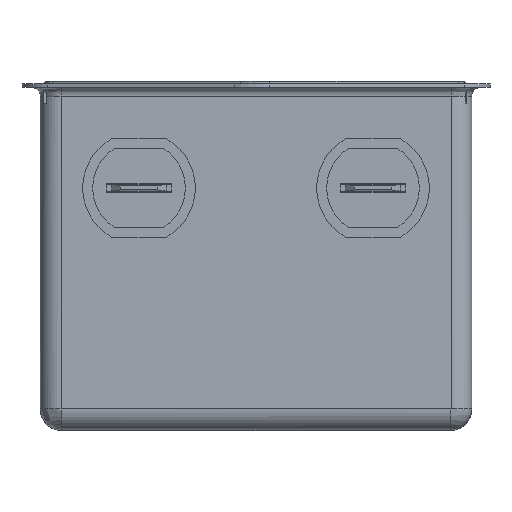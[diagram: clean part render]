
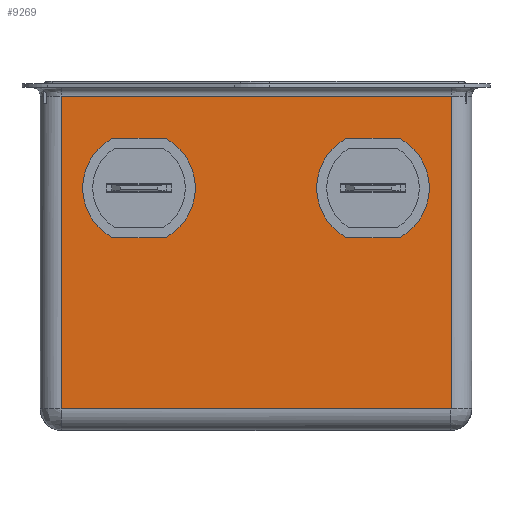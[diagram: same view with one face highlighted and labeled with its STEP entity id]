
A CAD part, left-side view. The second image highlights one B-rep face of the part: STEP entity #9269.
In plain terms, the highlighted planar face has unit normal (-1, 0, 0).
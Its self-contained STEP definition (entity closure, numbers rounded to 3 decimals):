
#3022=CARTESIAN_POINT('',(-18.073,32.813,2.5));
#3023=VERTEX_POINT('',#3022);
#3032=CARTESIAN_POINT('',(-18.073,-12.187,2.5));
#3033=VERTEX_POINT('',#3032);
#3041=CARTESIAN_POINT('',(-18.073,-12.187,2.5));
#3042=DIRECTION('',(0.0,1.0,0.0));
#3043=VECTOR('',#3042,45.0);
#3044=LINE('',#3041,#3043);
#3045=EDGE_CURVE('',#3033,#3023,#3044,.T.);
#3325=CARTESIAN_POINT('',(-18.073,32.813,38.6));
#3326=VERTEX_POINT('',#3325);
#3327=CARTESIAN_POINT('',(-18.073,32.813,2.5));
#3328=DIRECTION('',(0.0,0.0,1.0));
#3329=VECTOR('',#3328,36.1);
#3330=LINE('',#3327,#3329);
#3331=EDGE_CURVE('',#3023,#3326,#3330,.T.);
#4191=CARTESIAN_POINT('',(-18.073,-12.187,38.6));
#4192=VERTEX_POINT('',#4191);
#4193=CARTESIAN_POINT('',(-18.073,32.813,38.6));
#4194=DIRECTION('',(0.0,-1.0,0.0));
#4195=VECTOR('',#4194,45.);
#4196=LINE('',#4193,#4195);
#4197=EDGE_CURVE('',#3326,#4192,#4196,.T.);
#5837=CARTESIAN_POINT('',(-18.073,-12.187,38.6));
#5838=DIRECTION('',(0.0,0.0,-1.0));
#5839=VECTOR('',#5838,36.1);
#5840=LINE('',#5837,#5839);
#5841=EDGE_CURVE('',#4192,#3033,#5840,.T.);
#7356=CARTESIAN_POINT('',(-18.073,-6.218,33.75));
#7357=VERTEX_POINT('',#7356);
#7358=CARTESIAN_POINT('',(-18.073,-6.218,22.25));
#7359=VERTEX_POINT('',#7358);
#7360=CARTESIAN_POINT('',(-18.073,-3.187,28.));
#7361=DIRECTION('',(1.0,0.,0.));
#7362=DIRECTION('',(0.,-0.466,0.885));
#7363=AXIS2_PLACEMENT_3D('',#7360,#7361,#7362);
#7364=CIRCLE('',#7363,6.5);
#7365=EDGE_CURVE('',#7357,#7359,#7364,.T.);
#7388=CARTESIAN_POINT('',(-18.073,-0.156,22.25));
#7389=VERTEX_POINT('',#7388);
#7390=CARTESIAN_POINT('',(-18.073,-6.218,22.25));
#7391=DIRECTION('',(0.0,1.0,0.));
#7392=VECTOR('',#7391,6.062);
#7393=LINE('',#7390,#7392);
#7394=EDGE_CURVE('',#7359,#7389,#7393,.T.);
#7412=CARTESIAN_POINT('',(-18.073,-0.156,33.75));
#7413=VERTEX_POINT('',#7412);
#7414=CARTESIAN_POINT('',(-18.073,-3.187,28.));
#7415=DIRECTION('',(1.,0.,0.));
#7416=DIRECTION('',(0.,0.466,-0.885));
#7417=AXIS2_PLACEMENT_3D('',#7414,#7415,#7416);
#7418=CIRCLE('',#7417,6.5);
#7419=EDGE_CURVE('',#7389,#7413,#7418,.T.);
#7437=CARTESIAN_POINT('',(-18.073,-0.156,33.75));
#7438=DIRECTION('',(0.0,-1.0,0.));
#7439=VECTOR('',#7438,6.062);
#7440=LINE('',#7437,#7439);
#7441=EDGE_CURVE('',#7413,#7357,#7440,.T.);
#9216=CARTESIAN_POINT('',(-18.073,-14.587,0.0));
#9217=DIRECTION('',(-1.0,0.0,0.0));
#9218=DIRECTION('',(0.0,0.0,1.0));
#9219=AXIS2_PLACEMENT_3D('',#9216,#9217,#9218);
#9220=PLANE('',#9219);
#9221=ORIENTED_EDGE('',*,*,#4197,.F.);
#9222=ORIENTED_EDGE('',*,*,#3331,.F.);
#9223=ORIENTED_EDGE('',*,*,#3045,.F.);
#9224=ORIENTED_EDGE('',*,*,#5841,.F.);
#9225=EDGE_LOOP('',(#9221,#9222,#9223,#9224));
#9226=FACE_OUTER_BOUND('',#9225,.T.);
#9227=ORIENTED_EDGE('',*,*,#7441,.T.);
#9228=ORIENTED_EDGE('',*,*,#7365,.T.);
#9229=ORIENTED_EDGE('',*,*,#7394,.T.);
#9230=ORIENTED_EDGE('',*,*,#7419,.T.);
#9231=EDGE_LOOP('',(#9227,#9228,#9229,#9230));
#9232=FACE_BOUND('',#9231,.T.);
#9233=CARTESIAN_POINT('',(-18.073,26.844,33.75));
#9234=VERTEX_POINT('',#9233);
#9235=CARTESIAN_POINT('',(-18.073,20.782,33.75));
#9236=VERTEX_POINT('',#9235);
#9237=CARTESIAN_POINT('',(-18.073,26.844,33.75));
#9238=DIRECTION('',(0.0,-1.0,0.));
#9239=VECTOR('',#9238,6.062);
#9240=LINE('',#9237,#9239);
#9241=EDGE_CURVE('',#9234,#9236,#9240,.T.);
#9242=ORIENTED_EDGE('',*,*,#9241,.T.);
#9243=CARTESIAN_POINT('',(-18.073,20.782,22.25));
#9244=VERTEX_POINT('',#9243);
#9245=CARTESIAN_POINT('',(-18.073,23.813,28.));
#9246=DIRECTION('',(1.0,0.,0.));
#9247=DIRECTION('',(0.,-0.466,0.885));
#9248=AXIS2_PLACEMENT_3D('',#9245,#9246,#9247);
#9249=CIRCLE('',#9248,6.5);
#9250=EDGE_CURVE('',#9236,#9244,#9249,.T.);
#9251=ORIENTED_EDGE('',*,*,#9250,.T.);
#9252=CARTESIAN_POINT('',(-18.073,26.844,22.25));
#9253=VERTEX_POINT('',#9252);
#9254=CARTESIAN_POINT('',(-18.073,20.782,22.25));
#9255=DIRECTION('',(0.0,1.0,0.));
#9256=VECTOR('',#9255,6.062);
#9257=LINE('',#9254,#9256);
#9258=EDGE_CURVE('',#9244,#9253,#9257,.T.);
#9259=ORIENTED_EDGE('',*,*,#9258,.T.);
#9260=CARTESIAN_POINT('',(-18.073,23.813,28.));
#9261=DIRECTION('',(1.,0.,0.));
#9262=DIRECTION('',(0.,0.466,-0.885));
#9263=AXIS2_PLACEMENT_3D('',#9260,#9261,#9262);
#9264=CIRCLE('',#9263,6.5);
#9265=EDGE_CURVE('',#9253,#9234,#9264,.T.);
#9266=ORIENTED_EDGE('',*,*,#9265,.T.);
#9267=EDGE_LOOP('',(#9242,#9251,#9259,#9266));
#9268=FACE_BOUND('',#9267,.T.);
#9269=ADVANCED_FACE('',(#9226,#9232,#9268),#9220,.T.);
